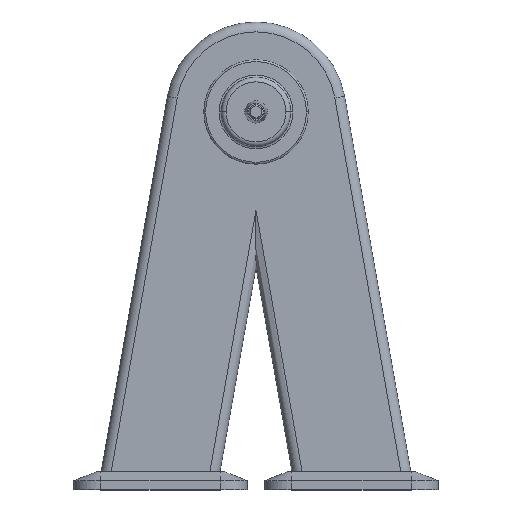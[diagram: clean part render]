
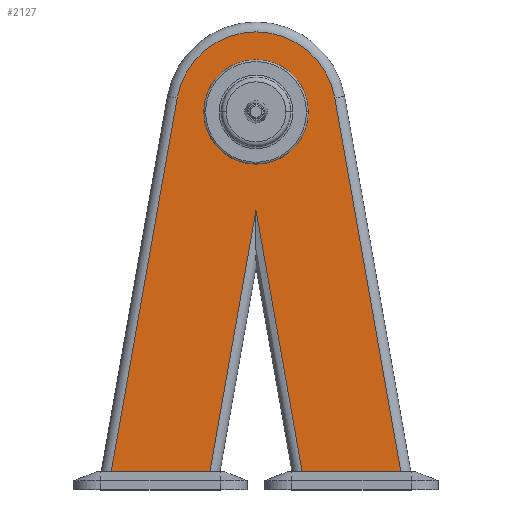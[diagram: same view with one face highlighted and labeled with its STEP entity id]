
A CAD part, top view. The second image highlights one B-rep face of the part: STEP entity #2127.
In plain terms, the highlighted planar face has unit normal (0, 0, 1).
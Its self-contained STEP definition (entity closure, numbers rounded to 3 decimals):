
#129 = VERTEX_POINT ( 'NONE', #2860 ) ;
#140 = LINE ( 'NONE', #1843, #1858 ) ;
#241 = DIRECTION ( 'NONE',  ( 1., 0., 0. ) ) ;
#335 = DIRECTION ( 'NONE',  ( -1., 0., 0. ) ) ;
#447 = AXIS2_PLACEMENT_3D ( 'NONE', #1838, #4071, #2169 ) ;
#483 = LINE ( 'NONE', #4347, #1460 ) ;
#560 = VERTEX_POINT ( 'NONE', #2949 ) ;
#738 = VERTEX_POINT ( 'NONE', #788 ) ;
#788 = CARTESIAN_POINT ( 'NONE',  ( -58., 420., 63. ) ) ;
#824 = ORIENTED_EDGE ( 'NONE', *, *, #1763, .T. ) ;
#829 = CARTESIAN_POINT ( 'NONE',  ( 160.904, 20., 63. ) ) ;
#858 = CARTESIAN_POINT ( 'NONE',  ( -51.238, 20., 63. ) ) ;
#1020 = LINE ( 'NONE', #3456, #2717 ) ;
#1067 = FACE_BOUND ( 'NONE', #3781, .T. ) ;
#1129 = EDGE_CURVE ( 'NONE', #3842, #738, #1185, .T. ) ;
#1138 = EDGE_LOOP ( 'NONE', ( #2460, #1168, #4180, #3672, #824, #3440, #1881 ) ) ;
#1168 = ORIENTED_EDGE ( 'NONE', *, *, #2441, .T. ) ;
#1185 = CIRCLE ( 'NONE', #3064, 58. ) ;
#1266 = VERTEX_POINT ( 'NONE', #3068 ) ;
#1275 = ORIENTED_EDGE ( 'NONE', *, *, #2896, .F. ) ;
#1350 = VECTOR ( 'NONE', #1809, 1000. ) ;
#1460 = VECTOR ( 'NONE', #335, 1000. ) ;
#1650 = CARTESIAN_POINT ( 'NONE',  ( 58., 420., 63. ) ) ;
#1657 = VERTEX_POINT ( 'NONE', #2018 ) ;
#1668 = VERTEX_POINT ( 'NONE', #2662 ) ;
#1672 = EDGE_CURVE ( 'NONE', #129, #1657, #2222, .T. ) ;
#1728 = CARTESIAN_POINT ( 'NONE',  ( 0., 420., 63. ) ) ;
#1763 = EDGE_CURVE ( 'NONE', #3040, #129, #2462, .T. ) ;
#1809 = DIRECTION ( 'NONE',  ( -0.174, -0.985, 0. ) ) ;
#1826 = EDGE_CURVE ( 'NONE', #1657, #1266, #3215, .T. ) ;
#1838 = CARTESIAN_POINT ( 'NONE',  ( 0., 420., 63. ) ) ;
#1843 = CARTESIAN_POINT ( 'NONE',  ( 0., 20., 63. ) ) ;
#1858 = VECTOR ( 'NONE', #3767, 1000. ) ;
#1881 = ORIENTED_EDGE ( 'NONE', *, *, #1826, .T. ) ;
#1933 = EDGE_CURVE ( 'NONE', #1668, #560, #1020, .T. ) ;
#2018 = CARTESIAN_POINT ( 'NONE',  ( -87.648, 435.455, 63. ) ) ;
#2062 = DIRECTION ( 'NONE',  ( 1., 0., 0. ) ) ;
#2127 = ADVANCED_FACE ( 'NONE', ( #1067, #3601 ), #2659, .T. ) ;
#2169 = DIRECTION ( 'NONE',  ( 1., 0., 0. ) ) ;
#2201 = CARTESIAN_POINT ( 'NONE',  ( -10.833, 249.147, 63. ) ) ;
#2222 = CIRCLE ( 'NONE', #3966, 89. ) ;
#2283 = EDGE_CURVE ( 'NONE', #3040, #560, #483, .T. ) ;
#2350 = DIRECTION ( 'NONE',  ( 1., 0., 0. ) ) ;
#2353 = DIRECTION ( 'NONE',  ( 0., 0., 1. ) ) ;
#2376 = EDGE_CURVE ( 'NONE', #2544, #1266, #140, .T. ) ;
#2402 = VECTOR ( 'NONE', #2843, 1000. ) ;
#2441 = EDGE_CURVE ( 'NONE', #2544, #1668, #3357, .T. ) ;
#2460 = ORIENTED_EDGE ( 'NONE', *, *, #2376, .F. ) ;
#2462 = LINE ( 'NONE', #2723, #4364 ) ;
#2544 = VERTEX_POINT ( 'NONE', #858 ) ;
#2658 = AXIS2_PLACEMENT_3D ( 'NONE', #3615, #4260, #2350 ) ;
#2659 = PLANE ( 'NONE',  #2658 ) ;
#2662 = CARTESIAN_POINT ( 'NONE',  ( 0., 310.583, 63. ) ) ;
#2717 = VECTOR ( 'NONE', #3778, 1000. ) ;
#2723 = CARTESIAN_POINT ( 'NONE',  ( 87.648, 435.455, 63. ) ) ;
#2843 = DIRECTION ( 'NONE',  ( 0.174, 0.985, 0. ) ) ;
#2860 = CARTESIAN_POINT ( 'NONE',  ( 87.648, 435.455, 63. ) ) ;
#2896 = EDGE_CURVE ( 'NONE', #738, #3842, #3999, .T. ) ;
#2949 = CARTESIAN_POINT ( 'NONE',  ( 51.238, 20., 63. ) ) ;
#3040 = VERTEX_POINT ( 'NONE', #829 ) ;
#3064 = AXIS2_PLACEMENT_3D ( 'NONE', #1728, #3976, #2062 ) ;
#3068 = CARTESIAN_POINT ( 'NONE',  ( -160.904, 20., 63. ) ) ;
#3215 = LINE ( 'NONE', #3399, #1350 ) ;
#3357 = LINE ( 'NONE', #2201, #2402 ) ;
#3399 = CARTESIAN_POINT ( 'NONE',  ( -165.825, -7.91, 63. ) ) ;
#3440 = ORIENTED_EDGE ( 'NONE', *, *, #1672, .T. ) ;
#3456 = CARTESIAN_POINT ( 'NONE',  ( 57.35, -14.664, 63. ) ) ;
#3601 = FACE_OUTER_BOUND ( 'NONE', #1138, .T. ) ;
#3615 = CARTESIAN_POINT ( 'NONE',  ( 0., 420., 63. ) ) ;
#3672 = ORIENTED_EDGE ( 'NONE', *, *, #2283, .F. ) ;
#3767 = DIRECTION ( 'NONE',  ( -1., 0., 0. ) ) ;
#3778 = DIRECTION ( 'NONE',  ( 0.174, -0.985, 0. ) ) ;
#3781 = EDGE_LOOP ( 'NONE', ( #1275, #3880 ) ) ;
#3842 = VERTEX_POINT ( 'NONE', #1650 ) ;
#3880 = ORIENTED_EDGE ( 'NONE', *, *, #1129, .F. ) ;
#3966 = AXIS2_PLACEMENT_3D ( 'NONE', #4262, #2353, #241 ) ;
#3976 = DIRECTION ( 'NONE',  ( 0., 0., 1. ) ) ;
#3999 = CIRCLE ( 'NONE', #447, 58. ) ;
#4071 = DIRECTION ( 'NONE',  ( 0., 0., 1. ) ) ;
#4180 = ORIENTED_EDGE ( 'NONE', *, *, #1933, .T. ) ;
#4260 = DIRECTION ( 'NONE',  ( 0., 0., 1. ) ) ;
#4262 = CARTESIAN_POINT ( 'NONE',  ( 0., 420., 63. ) ) ;
#4308 = DIRECTION ( 'NONE',  ( -0.174, 0.985, 0. ) ) ;
#4347 = CARTESIAN_POINT ( 'NONE',  ( 0., 20., 63. ) ) ;
#4364 = VECTOR ( 'NONE', #4308, 1000. ) ;
